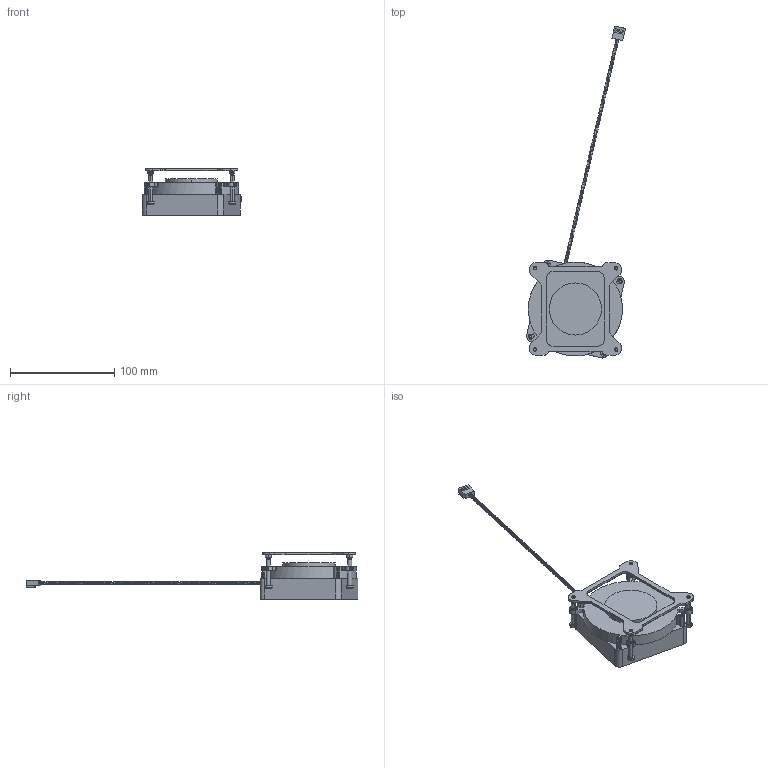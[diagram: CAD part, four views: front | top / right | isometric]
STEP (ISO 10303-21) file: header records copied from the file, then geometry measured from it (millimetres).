
FILE_DESCRIPTION((''),'2;1');
FILE_NAME('RGD3129-35B-002_ME_ASM','2022-10-11T',('User'),(''),'PRO/ENGINEER BY PARAMETRIC TECHNOLOGY CORPORATION, 2017170','PRO/ENGINEER BY PARAMETRIC TECHNOLOGY CORPORATION, 2017170','');
FILE_SCHEMA(('CONFIG_CONTROL_DESIGN'));
Products named in the file (19): 13MM_CPB_1; D90X15A_C_1; 78X78X15_D90_CPB_1_ASM_1_ASM; 78X78X15_D90_CPB_ASM_1_ASM; DEAKTOP_SCREW_D7_30_8L_1; E-RING_1; DESKTOP_SCREW_ASSY_ASM_1_ASM; AD208020HBPA04_1; 4P-PLUGZ__VORTEX__1; FAN_SCREW_T3X10MM_1; LABEL_R30_1_1; AD208020HBPA04_ASM_1_ASM; 850-BP-1700_1; ADHESIVE_1; MYLAR_1; 850-BP1700_1_ASM_1_ASM; 850-BP1700_ASM_1_ASM; RGD3129-35B-002_ASM_1_ASM; RGD3129-35B-002_ME_ASM
Assembly tree (24 placements, depth 5):
  RGD3129-35B-002_ME_ASM
    RGD3129-35B-002_ASM_1_ASM
      78X78X15_D90_CPB_ASM_1_ASM
        78X78X15_D90_CPB_1_ASM_1_ASM
          13MM_CPB_1
          D90X15A_C_1
      DESKTOP_SCREW_ASSY_ASM_1_ASM  x4
        DEAKTOP_SCREW_D7_30_8L_1
        E-RING_1
      AD208020HBPA04_ASM_1_ASM
        AD208020HBPA04_1
        4P-PLUGZ__VORTEX__1
        FAN_SCREW_T3X10MM_1  x4
        LABEL_R30_1_1
      850-BP1700_ASM_1_ASM
        850-BP1700_1_ASM_1_ASM
          850-BP-1700_1
          ADHESIVE_1
          MYLAR_1
Bounding box: 95.08 x 318.47 x 45 mm (x, y, z)
Volume: 223310.3 mm3; surface area: 65150.2 mm2
Topology: 20 solids, 20 shells, 2492 faces, 6577 edges, 4209 vertices
Faces by surface type: plane 1319, bspline 573, cylinder 489, extrusion 95, torus 16
Entity records: 119410 total; most frequent: CARTESIAN_POINT 82705, ORIENTED_EDGE 8600, DIRECTION 5475, EDGE_CURVE 4300, VERTEX_POINT 2694, VECTOR 2301, LINE 2206, EDGE_LOOP 1792
